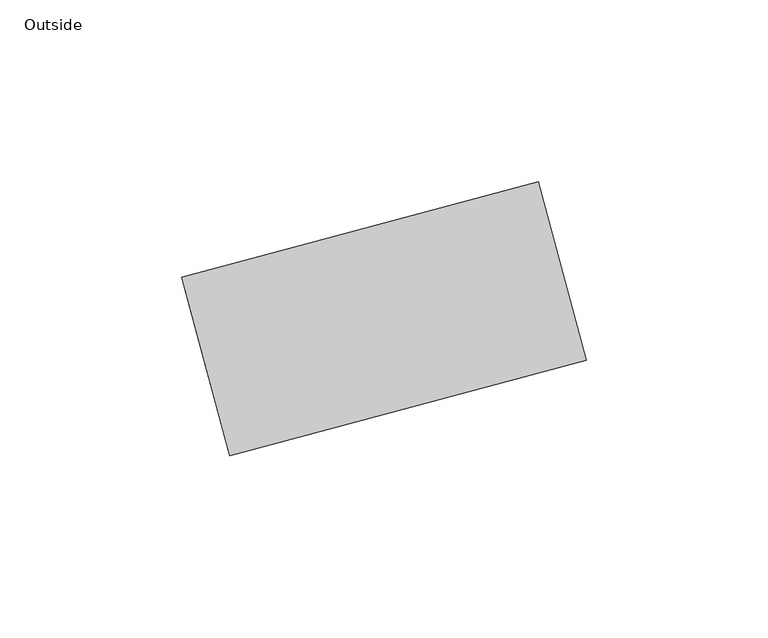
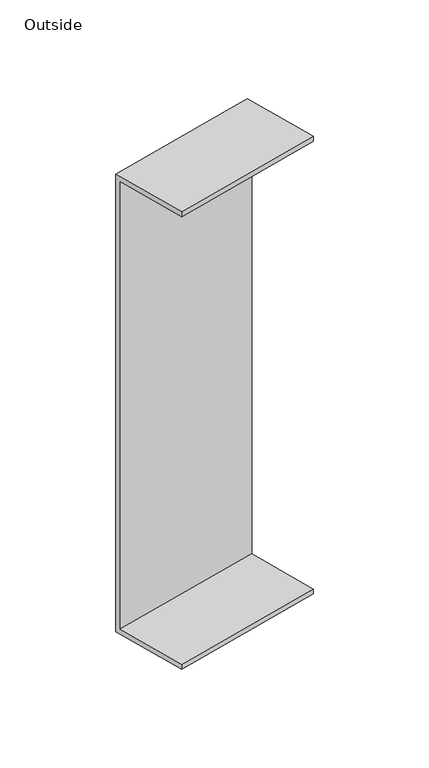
"""IFC4 building model written with IfcOpenShell, lengths in millimetres: cable carrier fitting geometry, Bend-Vertical-Cablofil-Wire_Mesh_Cable_Tray-Cablobend : Outside."""

from ifc_helpers import new_model, si_unit, frame, origin, place, context, project, spatial, polyline, outline, extrude, source, transform, mapped, element, save


def outside_2ad792aa(model_context):
    return source(origin(), model_context, "Body", "SweptSolid", [
        extrude(outline(polyline([(-50.8, 0.0), (0.0, 0.0), (0.0, -304.8), (-50.8, -304.8), (-50.8, -301.625), (-3.175, -301.625), (-3.175, -3.175), (-50.8, -3.175), (-50.8, 0.0)])), frame((-59.3979395, 25.4, 152.4), z_axis=(0.965925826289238, 0.2588190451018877, 0.0), x_axis=(-0.2588190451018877, 0.965925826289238, 0.0)), (0.0, 0.0, 1.0), 101.6),
    ])


if __name__ == "__main__":
    model = new_model("IFC4")
    model_context = context("Model", 3, world=origin())
    ifc_project = project(units=[si_unit("LENGTHUNIT", "METRE", prefix="MILLI")], contexts=[model_context])
    site = spatial("IfcSite", under=ifc_project)
    building = spatial("IfcBuilding", under=site)
    placement = place(None, origin())
    outside_shape = outside_2ad792aa(model_context)
    element("IfcCableCarrierFitting", 1, ObjectType="Bend-Vertical-Cablofil-Wire_Mesh_Cable_Tray-Cablobend : Outside", at=placement, inside=building, context=model_context, shape_type="MappedRepresentation", body=[
        mapped(outside_shape, transform((0.0, 0.0, 0.0), x_axis=(1.0, 0.0, 0.0), y_axis=(0.0, 1.0, 0.0), z_axis=(0.0, 0.0, 1.0))),
    ])
    save(model, "model.ifc")
